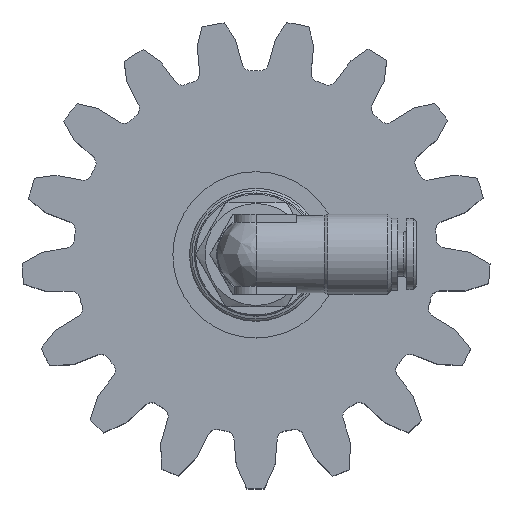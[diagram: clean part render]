
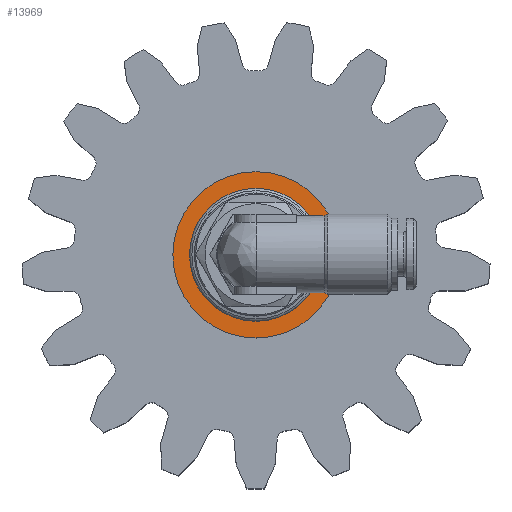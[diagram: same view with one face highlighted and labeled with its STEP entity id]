
A CAD part, top view. The second image highlights one B-rep face of the part: STEP entity #13969.
In plain terms, the highlighted planar face has unit normal (0, 0, 1) as drawn and (0, 1, 0) by its records, which use the part's own axes.
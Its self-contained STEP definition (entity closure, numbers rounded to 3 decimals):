
#2896 = CIRCLE ( 'NONE', #3822, 13.5 ) ;
#3391 = VERTEX_POINT ( 'NONE', #8345 ) ;
#3822 = AXIS2_PLACEMENT_3D ( 'NONE', #10143, #20976, #16900 ) ;
#5137 = VERTEX_POINT ( 'NONE', #7487 ) ;
#5317 = ORIENTED_EDGE ( 'NONE', *, *, #22654, .F. ) ;
#5651 = AXIS2_PLACEMENT_3D ( 'NONE', #27008, #28911, #6927 ) ;
#6533 = DIRECTION ( 'NONE',  ( 0., 0., 1. ) ) ;
#6825 = EDGE_LOOP ( 'NONE', ( #5317 ) ) ;
#6927 = DIRECTION ( 'NONE',  ( 0., 0., -1. ) ) ;
#7487 = CARTESIAN_POINT ( 'NONE',  ( 0., 0.6, 13.5 ) ) ;
#7793 = ORIENTED_EDGE ( 'NONE', *, *, #11262, .T. ) ;
#8345 = CARTESIAN_POINT ( 'NONE',  ( 0., 0.6, 10.8 ) ) ;
#10143 = CARTESIAN_POINT ( 'NONE',  ( 0., 0.6, 0. ) ) ;
#11262 = EDGE_CURVE ( 'NONE', #5137, #5137, #2896, .T. ) ;
#13969 = ADVANCED_FACE ( 'NONE', ( #18087, #24669 ), #15602, .F. ) ;
#14561 = AXIS2_PLACEMENT_3D ( 'NONE', #26465, #20148, #6533 ) ;
#15602 = PLANE ( 'NONE',  #5651 ) ;
#16900 = DIRECTION ( 'NONE',  ( 0., 0., 1. ) ) ;
#18087 = FACE_BOUND ( 'NONE', #6825, .T. ) ;
#20148 = DIRECTION ( 'NONE',  ( 0., 1., 0. ) ) ;
#20976 = DIRECTION ( 'NONE',  ( 0., 1., 0. ) ) ;
#22654 = EDGE_CURVE ( 'NONE', #3391, #3391, #26707, .T. ) ;
#24669 = FACE_OUTER_BOUND ( 'NONE', #27967, .T. ) ;
#26465 = CARTESIAN_POINT ( 'NONE',  ( 0., 0.6, 0. ) ) ;
#26707 = CIRCLE ( 'NONE', #14561, 10.8 ) ;
#27008 = CARTESIAN_POINT ( 'NONE',  ( 13.5, 0.6, 0. ) ) ;
#27967 = EDGE_LOOP ( 'NONE', ( #7793 ) ) ;
#28911 = DIRECTION ( 'NONE',  ( 0., -1., 0. ) ) ;
